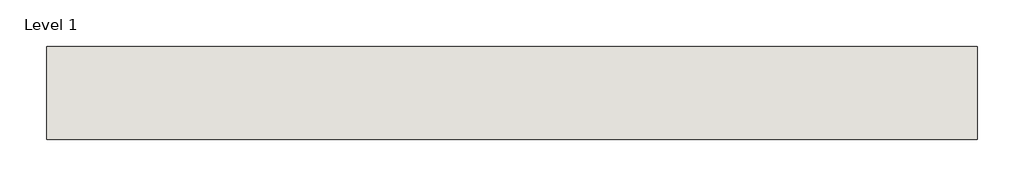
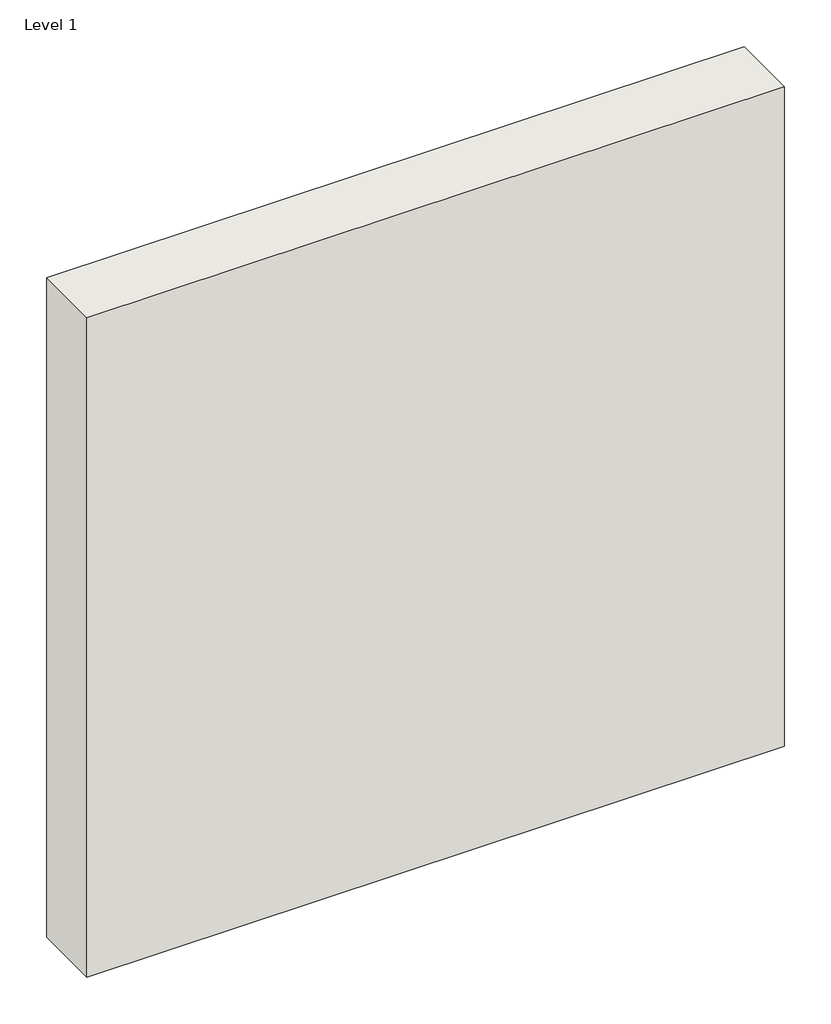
# One storey: 1 wall.
"""IFC4 building model written with IfcOpenShell, lengths in millimetres."""

from ifc_helpers import new_model, si_unit, origin, origin_with_axes, place, context, project, spatial, polyline, outline, extrude, element, save

model = new_model("IFC4")

# Units and contexts
model_context = context("Model", 3, world=origin())
ifc_project = project(units=[si_unit("LENGTHUNIT", "METRE", prefix="MILLI")], contexts=[model_context])

# Site, building, storey
site = spatial("IfcSite", under=ifc_project)
building = spatial("IfcBuilding", under=site)
storey = spatial("IfcBuildingStorey", under=building, Name="Level 1", Elevation=0.0)

# Wall
placement = place(None, origin())
element("IfcWall", 1, ObjectType="GYPTEC-REVESTIMENTO 100 BA15F", at=placement, inside=storey, context=model_context, shape_type="SweptSolid", body=[
    extrude(outline(polyline([(1000.0, 10.0), (0.0, 10.0), (0.0, 110.0), (1000.0, 110.0), (1000.0, 10.0)])), origin_with_axes(), (0.0, 0.0, 1.0), 1000.0),
])

save(model, "model.ifc")
